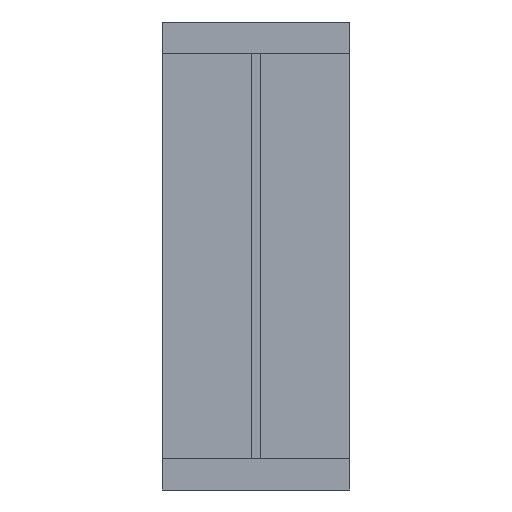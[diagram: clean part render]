
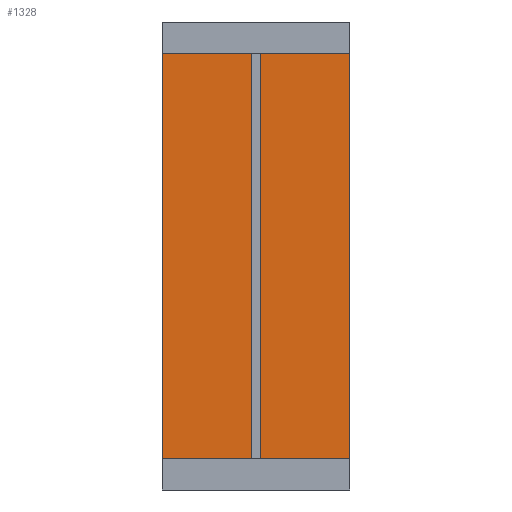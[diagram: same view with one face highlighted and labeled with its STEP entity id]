
A CAD part, front view. The second image highlights one B-rep face of the part: STEP entity #1328.
In plain terms, the highlighted planar face has unit normal (0, -1, 0).
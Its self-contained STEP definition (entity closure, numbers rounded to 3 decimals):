
#12 = VECTOR ( 'NONE', #770, 1000. ) ;
#14 = EDGE_CURVE ( 'NONE', #708, #72, #1466, .T. ) ;
#31 = VERTEX_POINT ( 'NONE', #71 ) ;
#39 = DIRECTION ( 'NONE',  ( 0., 0., 1. ) ) ;
#58 = CARTESIAN_POINT ( 'NONE',  ( -290., 520., 1500. ) ) ;
#61 = ORIENTED_EDGE ( 'NONE', *, *, #438, .F. ) ;
#66 = CARTESIAN_POINT ( 'NONE',  ( -290., 520., 1500. ) ) ;
#71 = CARTESIAN_POINT ( 'NONE',  ( -290., 520., 100. ) ) ;
#72 = VERTEX_POINT ( 'NONE', #676 ) ;
#76 = VERTEX_POINT ( 'NONE', #1021 ) ;
#92 = CARTESIAN_POINT ( 'NONE',  ( -290., 520., 0. ) ) ;
#102 = CARTESIAN_POINT ( 'NONE',  ( 290., 520., 1500. ) ) ;
#113 = ORIENTED_EDGE ( 'NONE', *, *, #1356, .F. ) ;
#136 = VECTOR ( 'NONE', #271, 1000. ) ;
#147 = ORIENTED_EDGE ( 'NONE', *, *, #14, .F. ) ;
#155 = EDGE_CURVE ( 'NONE', #472, #595, #226, .T. ) ;
#156 = ORIENTED_EDGE ( 'NONE', *, *, #1469, .F. ) ;
#167 = DIRECTION ( 'NONE',  ( 0., 0., 1. ) ) ;
#173 = CARTESIAN_POINT ( 'NONE',  ( -300., 520., 100. ) ) ;
#186 = FACE_OUTER_BOUND ( 'NONE', #840, .T. ) ;
#187 = LINE ( 'NONE', #564, #795 ) ;
#203 = VERTEX_POINT ( 'NONE', #58 ) ;
#215 = CARTESIAN_POINT ( 'NONE',  ( 300., 520., 1400. ) ) ;
#223 = DIRECTION ( 'NONE',  ( -1., 0., 0. ) ) ;
#226 = LINE ( 'NONE', #1389, #1183 ) ;
#238 = ORIENTED_EDGE ( 'NONE', *, *, #929, .F. ) ;
#262 = VERTEX_POINT ( 'NONE', #511 ) ;
#269 = CARTESIAN_POINT ( 'NONE',  ( -290., 520., 100. ) ) ;
#271 = DIRECTION ( 'NONE',  ( 0., 0., -1. ) ) ;
#274 = VECTOR ( 'NONE', #39, 1000. ) ;
#279 = VECTOR ( 'NONE', #691, 1000. ) ;
#288 = DIRECTION ( 'NONE',  ( 0., 0., -1. ) ) ;
#327 = CARTESIAN_POINT ( 'NONE',  ( -300., 520., 100. ) ) ;
#354 = CARTESIAN_POINT ( 'NONE',  ( -290., 520., 1400. ) ) ;
#403 = LINE ( 'NONE', #522, #274 ) ;
#411 = VERTEX_POINT ( 'NONE', #173 ) ;
#435 = EDGE_CURVE ( 'NONE', #411, #472, #403, .T. ) ;
#438 = EDGE_CURVE ( 'NONE', #562, #262, #1084, .T. ) ;
#443 = EDGE_CURVE ( 'NONE', #203, #1033, #187, .T. ) ;
#472 = VERTEX_POINT ( 'NONE', #1368 ) ;
#487 = EDGE_CURVE ( 'NONE', #76, #555, #1112, .T. ) ;
#507 = EDGE_CURVE ( 'NONE', #72, #76, #974, .T. ) ;
#511 = CARTESIAN_POINT ( 'NONE',  ( 300., 520., 1400. ) ) ;
#520 = CARTESIAN_POINT ( 'NONE',  ( 290., 520., 1400. ) ) ;
#522 = CARTESIAN_POINT ( 'NONE',  ( -300., 520., 1400. ) ) ;
#526 = DIRECTION ( 'NONE',  ( 0., -1., 0. ) ) ;
#530 = AXIS2_PLACEMENT_3D ( 'NONE', #968, #526, #288 ) ;
#555 = VERTEX_POINT ( 'NONE', #1288 ) ;
#562 = VERTEX_POINT ( 'NONE', #520 ) ;
#564 = CARTESIAN_POINT ( 'NONE',  ( -290., 520., 1500. ) ) ;
#595 = VERTEX_POINT ( 'NONE', #354 ) ;
#602 = DIRECTION ( 'NONE',  ( 1., 0., 0. ) ) ;
#661 = CARTESIAN_POINT ( 'NONE',  ( 300., 520., 100. ) ) ;
#673 = VECTOR ( 'NONE', #793, 1000. ) ;
#676 = CARTESIAN_POINT ( 'NONE',  ( 290., 520., 100. ) ) ;
#691 = DIRECTION ( 'NONE',  ( 0., 0., -1. ) ) ;
#708 = VERTEX_POINT ( 'NONE', #1400 ) ;
#766 = ORIENTED_EDGE ( 'NONE', *, *, #1055, .F. ) ;
#770 = DIRECTION ( 'NONE',  ( 1., 0., 0. ) ) ;
#772 = LINE ( 'NONE', #269, #1418 ) ;
#793 = DIRECTION ( 'NONE',  ( -1., 0., 0. ) ) ;
#795 = VECTOR ( 'NONE', #998, 1000. ) ;
#803 = LINE ( 'NONE', #327, #1003 ) ;
#840 = EDGE_LOOP ( 'NONE', ( #1392, #113, #238, #864, #853, #147, #1425, #61, #766, #1388, #156, #1353 ) ) ;
#853 = ORIENTED_EDGE ( 'NONE', *, *, #507, .F. ) ;
#864 = ORIENTED_EDGE ( 'NONE', *, *, #487, .F. ) ;
#870 = CARTESIAN_POINT ( 'NONE',  ( 290., 520., 1500. ) ) ;
#888 = PLANE ( 'NONE',  #530 ) ;
#929 = EDGE_CURVE ( 'NONE', #555, #31, #772, .T. ) ;
#968 = CARTESIAN_POINT ( 'NONE',  ( 0., 520., 0. ) ) ;
#974 = LINE ( 'NONE', #1304, #136 ) ;
#985 = LINE ( 'NONE', #102, #1159 ) ;
#998 = DIRECTION ( 'NONE',  ( 1., 0., 0. ) ) ;
#1003 = VECTOR ( 'NONE', #223, 1000. ) ;
#1004 = DIRECTION ( 'NONE',  ( 0., 0., -1. ) ) ;
#1021 = CARTESIAN_POINT ( 'NONE',  ( 290., 520., 0. ) ) ;
#1033 = VERTEX_POINT ( 'NONE', #870 ) ;
#1055 = EDGE_CURVE ( 'NONE', #1033, #562, #985, .T. ) ;
#1084 = LINE ( 'NONE', #1333, #12 ) ;
#1087 = DIRECTION ( 'NONE',  ( 0., 0., 1. ) ) ;
#1094 = DIRECTION ( 'NONE',  ( -1., 0., 0. ) ) ;
#1112 = LINE ( 'NONE', #92, #673 ) ;
#1159 = VECTOR ( 'NONE', #1004, 1000. ) ;
#1183 = VECTOR ( 'NONE', #602, 1000. ) ;
#1232 = EDGE_CURVE ( 'NONE', #262, #708, #1272, .T. ) ;
#1272 = LINE ( 'NONE', #215, #279 ) ;
#1288 = CARTESIAN_POINT ( 'NONE',  ( -290., 520., 0. ) ) ;
#1304 = CARTESIAN_POINT ( 'NONE',  ( 290., 520., 100. ) ) ;
#1322 = LINE ( 'NONE', #66, #1324 ) ;
#1324 = VECTOR ( 'NONE', #167, 1000. ) ;
#1328 = ADVANCED_FACE ( 'NONE', ( #186 ), #888, .T. ) ;
#1333 = CARTESIAN_POINT ( 'NONE',  ( 290., 520., 1400. ) ) ;
#1342 = VECTOR ( 'NONE', #1094, 1000. ) ;
#1353 = ORIENTED_EDGE ( 'NONE', *, *, #155, .F. ) ;
#1356 = EDGE_CURVE ( 'NONE', #31, #411, #803, .T. ) ;
#1368 = CARTESIAN_POINT ( 'NONE',  ( -300., 520., 1400. ) ) ;
#1388 = ORIENTED_EDGE ( 'NONE', *, *, #443, .F. ) ;
#1389 = CARTESIAN_POINT ( 'NONE',  ( -290., 520., 1400. ) ) ;
#1392 = ORIENTED_EDGE ( 'NONE', *, *, #435, .F. ) ;
#1400 = CARTESIAN_POINT ( 'NONE',  ( 300., 520., 100. ) ) ;
#1418 = VECTOR ( 'NONE', #1087, 1000. ) ;
#1425 = ORIENTED_EDGE ( 'NONE', *, *, #1232, .F. ) ;
#1466 = LINE ( 'NONE', #661, #1342 ) ;
#1469 = EDGE_CURVE ( 'NONE', #595, #203, #1322, .T. ) ;
